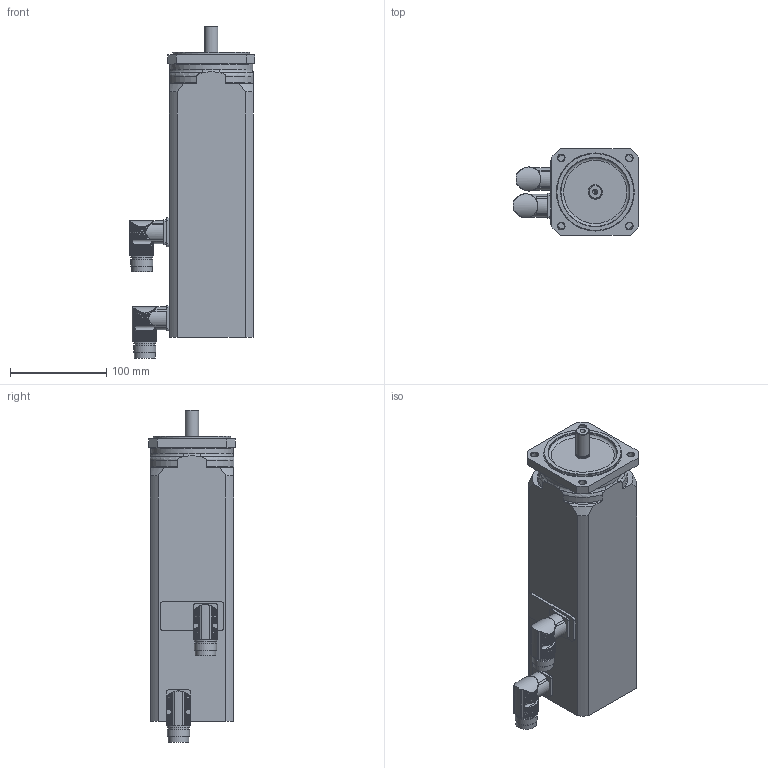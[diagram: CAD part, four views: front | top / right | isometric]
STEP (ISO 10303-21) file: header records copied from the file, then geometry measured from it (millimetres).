
FILE_DESCRIPTION(/* description */ (''),/* implementation_level */ '2;1');
FILE_NAME(/* name */ 'MR 7436-Ux-Nxxx-G##-A0D-MS',/* time_stamp */ '2007-07-13T09:50:00+01:00',/* author */ (''),/* organization */ ('ESR Pollmeier GmbH'),/* preprocessor_version */ 'ST-DEVELOPER v8',/* originating_system */ 'UNIGRAPHICS SOLUTIONS - UNIGRAPHICS 18.0',/* authorisation */ '');
FILE_SCHEMA (('AUTOMOTIVE_DESIGN { 1 2 10303 214 0 1 1 1 }'));
Length unit declared in the file: millimetre
Products named in the file (3): Winkelflanschdose_0; Rotor_SY3_0; MR7436-Ux-Nxxx-G##-A0D-MS_0
Assembly tree (3 placements, depth 2):
  MR7436-Ux-Nxxx-G##-A0D-MS_0
    Rotor_SY3_0
    Winkelflanschdose_0  x2
Bounding box: 129.99 x 90 x 344.65 mm (x, y, z)
Volume: 2230241.5 mm3; surface area: 132608.2 mm2
Topology: 4 solids, 4 shells, 418 faces, 1164 edges, 771 vertices
Faces by surface type: cylinder 311, plane 69, cone 17, torus 17, bspline 4
Full cylindrical faces by diameter (mm): 2.5 x1, 7 x4, 13.52 x1, 14 x1, 15 x1, 16 x2, 21 x2, 21.5 x2, 23 x4, 72 x1, 80 x1, 86 x1
Entity records: 8575 total; most frequent: CARTESIAN_POINT 2320, ORIENTED_EDGE 1310, DIRECTION 1230, EDGE_CURVE 655, AXIS2_PLACEMENT_3D 501, VERTEX_POINT 449, EDGE_LOOP 303, ADVANCED_FACE 254
